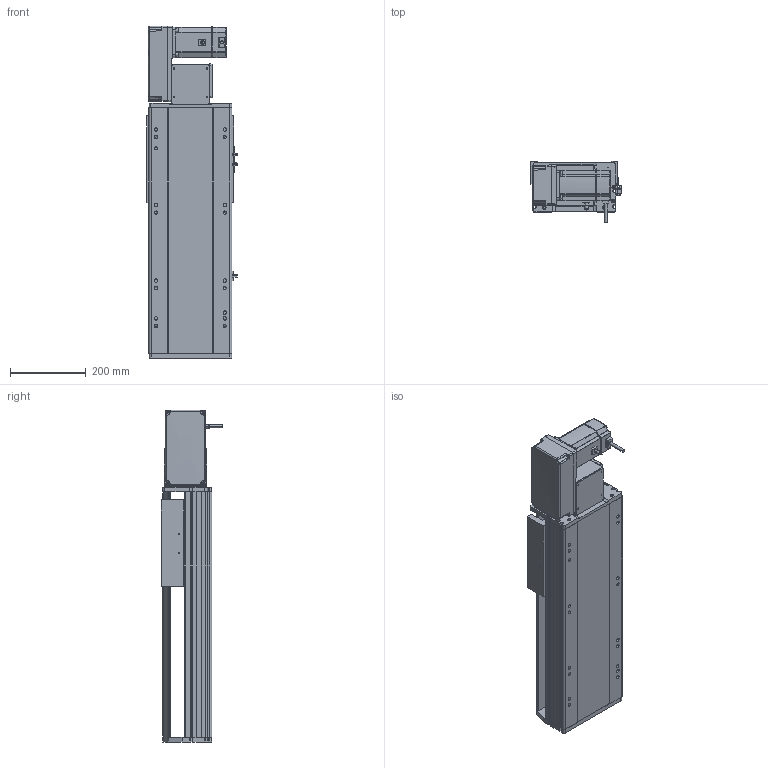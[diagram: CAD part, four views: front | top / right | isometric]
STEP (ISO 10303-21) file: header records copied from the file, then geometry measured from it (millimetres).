
FILE_DESCRIPTION (( 'STEP AP214' ), '1' );
FILE_NAME ('RTB22S-XX-300-L-M75-C4.STEP', '2025-12-12T03:11:27', ( '' ), ( '' ), 'SwSTEP 2.0', 'SolidWorks 2018', '' );
FILE_SCHEMA (( 'AUTOMOTIVE_DESIGN' ));
Length unit declared in the file: millimetre
Products named in the file (14): RTB22S-XX-300-L-M75-C4; RTH22-GY-013外置感应片^RTB22S-XX-XX-L-M75-C4; RTB22S-L-011菁釱^RTB22S-XX-XX-L-M75-C4; RTB22S-GY-018P^RTB22S-L-々湍釱蚾饜_RTB22S-XX-XX-L-M75-C4; OMRON EE-SX672 传感器^RTB22S-XX-XX-L-M75-C4; RTB22S-GY-007奻裔^RTB22S-XX-XX-L-M75-C4; RTB22S-GY-001耜裔^RTB22S-XX-XX-L-M75-C4; 750W萇儂^RTB22S-XX-XX-L-M75-C4; RTB22S-GY-005P^RTB22S-L-々湍釱蚾饜_RTB22S-XX-XX-L-M75-C4; RTB22S-GY-017P^RTB22S-L-々湍釱蚾饜_RTB22S-XX-XX-L-M75-C4; RTB22S-L-々湍釱蚾饜^RTB22S-XX-XX-L-M75-C4; RTB22S-GY-014--々湍釱^RTB22S-L-々湍釱蚾饜_RTB22S-XX-XX-L-M75-C4; RTB22S-L-004賑釱^RTB22S-XX-XX-L-M75-C4; RTB22S-GY-008-M75--萇儂啣^RTB22S-L-々湍釱蚾饜_RTB22S-XX-XX-L-M75-C4
Assembly tree (16 placements, depth 3):
  RTB22S-XX-300-L-M75-C4
    RTB22S-L-011菁釱^RTB22S-XX-XX-L-M75-C4
    750W萇儂^RTB22S-XX-XX-L-M75-C4
    RTB22S-L-004賑釱^RTB22S-XX-XX-L-M75-C4
    OMRON EE-SX672 传感器^RTB22S-XX-XX-L-M75-C4  x3
    RTH22-GY-013外置感应片^RTB22S-XX-XX-L-M75-C4
    RTB22S-GY-007奻裔^RTB22S-XX-XX-L-M75-C4
    RTB22S-GY-001耜裔^RTB22S-XX-XX-L-M75-C4
    RTB22S-L-々湍釱蚾饜^RTB22S-XX-XX-L-M75-C4
      RTB22S-GY-014--々湍釱^RTB22S-L-々湍釱蚾饜_RTB22S-XX-XX-L-M75-C4
      RTB22S-GY-017P^RTB22S-L-々湍釱蚾饜_RTB22S-XX-XX-L-M75-C4  x2
      RTB22S-GY-005P^RTB22S-L-々湍釱蚾饜_RTB22S-XX-XX-L-M75-C4
      RTB22S-GY-008-M75--萇儂啣^RTB22S-L-々湍釱蚾饜_RTB22S-XX-XX-L-M75-C4
      RTB22S-GY-018P^RTB22S-L-々湍釱蚾饜_RTB22S-XX-XX-L-M75-C4
Bounding box: 238.5 x 162.7 x 879 mm (x, y, z)
Volume: 13133057.4 mm3; surface area: 1401170.8 mm2
Topology: 15 solids, 15 shells, 1911 faces, 5186 edges, 3332 vertices
Faces by surface type: plane 907, cylinder 574, bspline 296, cone 122, sphere 8, torus 4
Entity records: 50136 total; most frequent: CARTESIAN_POINT 14580, ORIENTED_EDGE 7192, DIRECTION 6850, EDGE_CURVE 3596, AXIS2_PLACEMENT_3D 2390, VERTEX_POINT 2336, LINE 2070, VECTOR 2070
